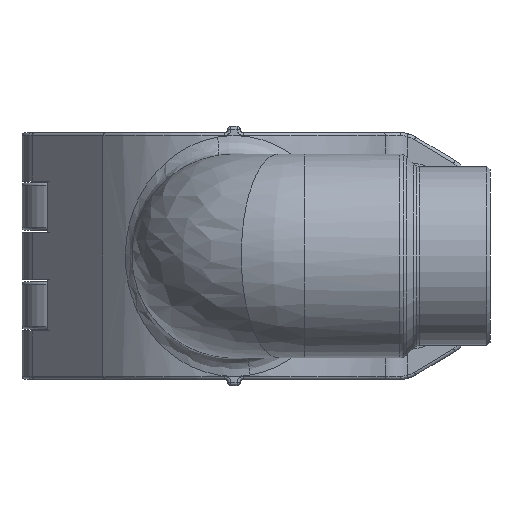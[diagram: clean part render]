
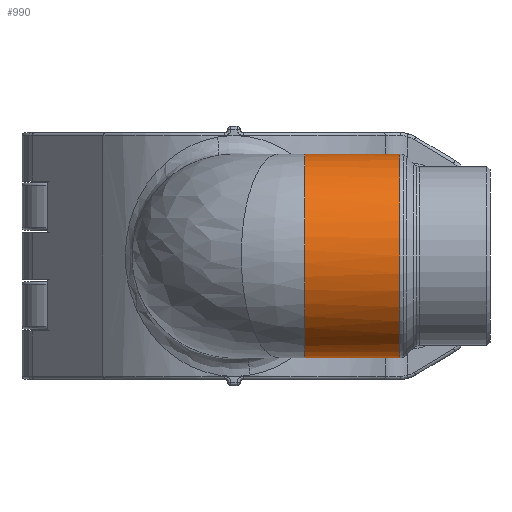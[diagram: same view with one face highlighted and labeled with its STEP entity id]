
A CAD part, front view. The second image highlights one B-rep face of the part: STEP entity #990.
In plain terms, the highlighted cylindrical face has radius 16.5 mm (diameter 33 mm), a partial arc.
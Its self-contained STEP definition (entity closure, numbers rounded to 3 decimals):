
#318=CYLINDRICAL_SURFACE('',#6572,16.5);
#480=B_SPLINE_CURVE_WITH_KNOTS('',3,(#15195,#15196,#15197,#15198,#15199,
#15200,#15201,#15202,#15203,#15204,#15205,#15206,#15207,#15208,#15209,#15210,
#15211,#15212,#15213,#15214,#15215),.UNSPECIFIED.,.F.,.F.,(4,1,1,1,1,1,1,
1,1,1,1,1,1,1,1,1,1,1,4),(0.,0.016,0.035,0.109,
0.183,0.258,0.332,0.406,0.48,
0.517,0.555,0.592,0.629,
0.703,0.777,0.852,0.926,
0.963,1.),.UNSPECIFIED.);
#990=ADVANCED_FACE('',(#1377),#318,.T.);
#1377=FACE_OUTER_BOUND('',#1762,.T.);
#1762=EDGE_LOOP('',(#3873,#3874,#3875,#3876));
#1986=LINE('',#15135,#2200);
#1987=LINE('',#15193,#2201);
#2200=VECTOR('',#8342,1.);
#2201=VECTOR('',#8343,1.);
#3873=ORIENTED_EDGE('',*,*,#5296,.T.);
#3874=ORIENTED_EDGE('',*,*,#5297,.F.);
#3875=ORIENTED_EDGE('',*,*,#5292,.F.);
#3876=ORIENTED_EDGE('',*,*,#5298,.F.);
#4434=VERTEX_POINT('',#15130);
#4435=VERTEX_POINT('',#15132);
#4436=VERTEX_POINT('',#15136);
#4439=VERTEX_POINT('',#15192);
#5292=EDGE_CURVE('',#4435,#4436,#1986,.T.);
#5296=EDGE_CURVE('',#4434,#4439,#1987,.T.);
#5297=EDGE_CURVE('',#4436,#4439,#480,.T.);
#5298=EDGE_CURVE('',#4434,#4435,#5793,.T.);
#5793=CIRCLE('',#6571,16.5);
#6571=AXIS2_PLACEMENT_3D('',#15216,#8346,#8347);
#6572=AXIS2_PLACEMENT_3D('',#15217,#8348,#8349);
#8342=DIRECTION('',(-1.,0.,0.));
#8343=DIRECTION('',(-1.,0.,0.));
#8346=DIRECTION('',(1.,0.,0.));
#8347=DIRECTION('',(0.,0.,1.));
#8348=DIRECTION('',(-1.,0.,0.));
#8349=DIRECTION('',(0.,0.,-1.));
#15130=CARTESIAN_POINT('',(26.879,-46.,16.5));
#15132=CARTESIAN_POINT('',(26.879,-46.,-16.5));
#15135=CARTESIAN_POINT('',(26.879,-46.,-16.5));
#15136=CARTESIAN_POINT('',(11.502,-46.,-16.5));
#15192=CARTESIAN_POINT('',(11.502,-46.,16.5));
#15193=CARTESIAN_POINT('',(26.879,-46.,16.5));
#15195=CARTESIAN_POINT('',(11.502,-46.,-16.5));
#15196=CARTESIAN_POINT('',(11.502,-46.256,-16.5));
#15197=CARTESIAN_POINT('',(11.502,-46.801,-16.487));
#15198=CARTESIAN_POINT('',(11.502,-48.547,-16.36));
#15199=CARTESIAN_POINT('',(11.502,-51.31,-15.782));
#15200=CARTESIAN_POINT('',(11.502,-54.914,-14.081));
#15201=CARTESIAN_POINT('',(11.502,-58.082,-11.484));
#15202=CARTESIAN_POINT('',(11.502,-60.506,-8.199));
#15203=CARTESIAN_POINT('',(11.502,-62.014,-4.553));
#15204=CARTESIAN_POINT('',(11.502,-62.504,-1.491));
#15205=CARTESIAN_POINT('',(11.502,-62.511,0.81));
#15206=CARTESIAN_POINT('',(11.502,-62.327,2.609));
#15207=CARTESIAN_POINT('',(11.502,-61.929,4.439));
#15208=CARTESIAN_POINT('',(11.502,-61.098,6.875));
#15209=CARTESIAN_POINT('',(11.502,-59.474,9.81));
#15210=CARTESIAN_POINT('',(11.502,-56.669,12.807));
#15211=CARTESIAN_POINT('',(11.502,-53.252,14.998));
#15212=CARTESIAN_POINT('',(11.502,-50.184,16.046));
#15213=CARTESIAN_POINT('',(11.502,-47.755,16.439));
#15214=CARTESIAN_POINT('',(11.502,-46.583,16.5));
#15215=CARTESIAN_POINT('',(11.502,-46.,16.5));
#15216=CARTESIAN_POINT('',(26.879,-46.,0.));
#15217=CARTESIAN_POINT('',(-7.713,-46.,0.));
